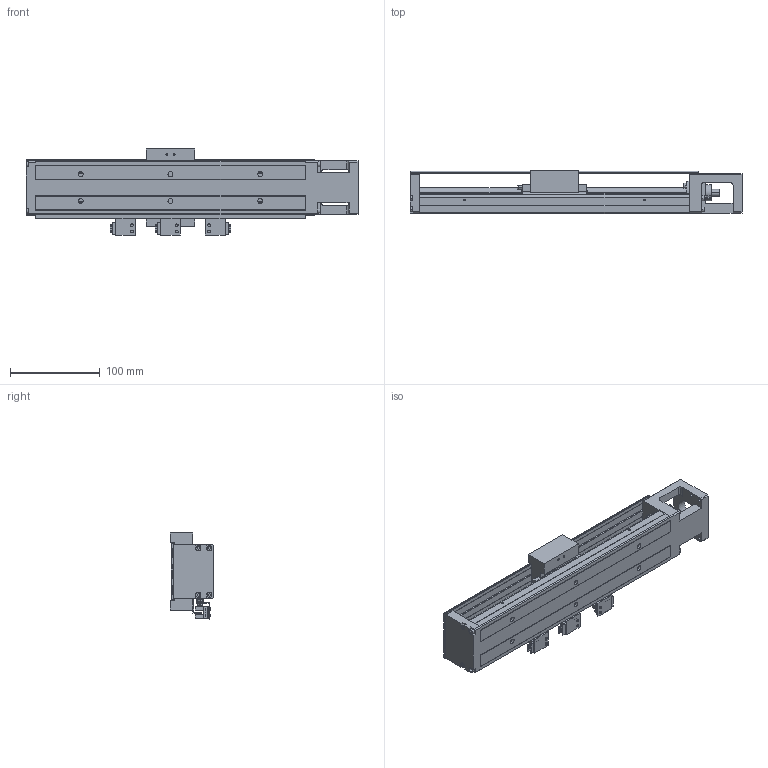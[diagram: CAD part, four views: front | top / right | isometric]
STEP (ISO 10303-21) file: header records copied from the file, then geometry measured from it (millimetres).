
FILE_DESCRIPTION (( 'STEP AP203' ), '1' );
FILE_NAME ('HKK60D10C-300A1-F0CS2.stp', '2021-11-30T01:29:19', ( '' ), ( '' ), 'SwSTEP 2.0', 'SolidWorks 2018', '' );
FILE_SCHEMA (( 'CONFIG_CONTROL_DESIGN' ));
Length unit declared in the file: millimetre
Products named in the file (1): HKK60D10C-300A1-F0CS2
Bounding box: 370 x 48 x 95.85 mm (x, y, z)
Volume: 529467.6 mm3; surface area: 193008.6 mm2
Topology: 6 solids, 16 shells, 1333 faces, 3385 edges, 2155 vertices
Faces by surface type: plane 839, cylinder 362, cone 98, torus 32, bspline 2
Entity records: 39987 total; most frequent: CARTESIAN_POINT 7977, ORIENTED_EDGE 6670, DIRECTION 6495, EDGE_CURVE 3335, VECTOR 2367, LINE 2367, VERTEX_POINT 2155, AXIS2_PLACEMENT_3D 2064
